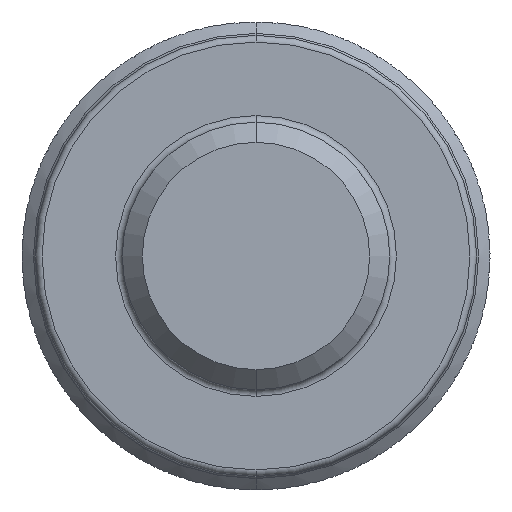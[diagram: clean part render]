
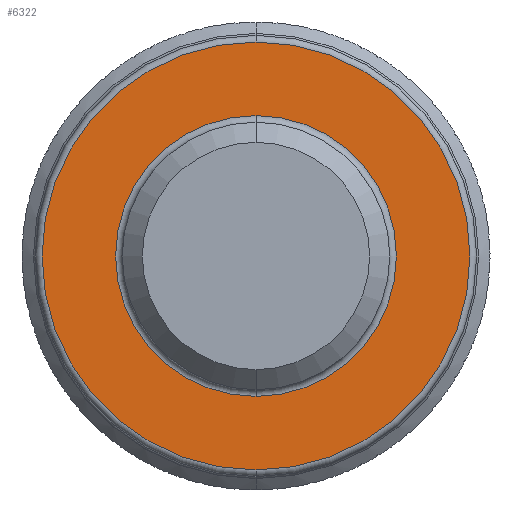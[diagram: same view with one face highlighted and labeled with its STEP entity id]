
A CAD part, front view. The second image highlights one B-rep face of the part: STEP entity #6322.
In plain terms, the highlighted planar face has unit normal (0, -1, 0).
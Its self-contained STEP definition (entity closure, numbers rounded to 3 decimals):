
#332 = CARTESIAN_POINT ( 'NONE',  ( 0., -4., 3.2 ) ) ;
#1132 = DIRECTION ( 'NONE',  ( 0., -1., 0. ) ) ;
#1591 = CARTESIAN_POINT ( 'NONE',  ( 0., -4., 0. ) ) ;
#1875 = ORIENTED_EDGE ( 'NONE', *, *, #3542, .T. ) ;
#2054 = PLANE ( 'NONE',  #4765 ) ;
#2195 = CIRCLE ( 'NONE', #3312, 2.1 ) ;
#2964 = AXIS2_PLACEMENT_3D ( 'NONE', #1591, #7105, #3100 ) ;
#3100 = DIRECTION ( 'NONE',  ( 0., 0., -1. ) ) ;
#3164 = CARTESIAN_POINT ( 'NONE',  ( 0., -4., 0. ) ) ;
#3214 = DIRECTION ( 'NONE',  ( 0., 1., 0. ) ) ;
#3312 = AXIS2_PLACEMENT_3D ( 'NONE', #3164, #3214, #6306 ) ;
#3464 = FACE_OUTER_BOUND ( 'NONE', #6269, .T. ) ;
#3519 = DIRECTION ( 'NONE',  ( 0., -1., 0. ) ) ;
#3542 = EDGE_CURVE ( 'NONE', #6128, #6721, #6761, .T. ) ;
#3707 = CIRCLE ( 'NONE', #7902, 3.2 ) ;
#4370 = CARTESIAN_POINT ( 'NONE',  ( 0., -4., -3.2 ) ) ;
#4485 = DIRECTION ( 'NONE',  ( 0., 0., -1. ) ) ;
#4496 = CARTESIAN_POINT ( 'NONE',  ( 0., -4., -2.1 ) ) ;
#4539 = EDGE_CURVE ( 'NONE', #8749, #9148, #3707, .T. ) ;
#4765 = AXIS2_PLACEMENT_3D ( 'NONE', #8775, #3519, #6548 ) ;
#4909 = DIRECTION ( 'NONE',  ( 0., 1., 0. ) ) ;
#5079 = FACE_BOUND ( 'NONE', #8560, .T. ) ;
#5175 = ORIENTED_EDGE ( 'NONE', *, *, #8495, .T. ) ;
#5826 = CARTESIAN_POINT ( 'NONE',  ( 0., -4., 2.1 ) ) ;
#6080 = DIRECTION ( 'NONE',  ( 0., 0., -1. ) ) ;
#6128 = VERTEX_POINT ( 'NONE', #4496 ) ;
#6269 = EDGE_LOOP ( 'NONE', ( #9123, #9073 ) ) ;
#6286 = AXIS2_PLACEMENT_3D ( 'NONE', #8760, #4909, #6080 ) ;
#6306 = DIRECTION ( 'NONE',  ( 0., 0., -1. ) ) ;
#6322 = ADVANCED_FACE ( 'NONE', ( #5079, #3464 ), #2054, .T. ) ;
#6548 = DIRECTION ( 'NONE',  ( 0., 0., -1. ) ) ;
#6721 = VERTEX_POINT ( 'NONE', #5826 ) ;
#6761 = CIRCLE ( 'NONE', #6286, 2.1 ) ;
#7105 = DIRECTION ( 'NONE',  ( 0., -1., 0. ) ) ;
#7198 = CIRCLE ( 'NONE', #2964, 3.2 ) ;
#7380 = EDGE_CURVE ( 'NONE', #9148, #8749, #7198, .T. ) ;
#7457 = CARTESIAN_POINT ( 'NONE',  ( 0., -4., 0. ) ) ;
#7902 = AXIS2_PLACEMENT_3D ( 'NONE', #7457, #1132, #4485 ) ;
#8495 = EDGE_CURVE ( 'NONE', #6721, #6128, #2195, .T. ) ;
#8560 = EDGE_LOOP ( 'NONE', ( #1875, #5175 ) ) ;
#8749 = VERTEX_POINT ( 'NONE', #4370 ) ;
#8760 = CARTESIAN_POINT ( 'NONE',  ( 0., -4., 0. ) ) ;
#8775 = CARTESIAN_POINT ( 'NONE',  ( 2., -4., 0. ) ) ;
#9073 = ORIENTED_EDGE ( 'NONE', *, *, #7380, .T. ) ;
#9123 = ORIENTED_EDGE ( 'NONE', *, *, #4539, .T. ) ;
#9148 = VERTEX_POINT ( 'NONE', #332 ) ;
